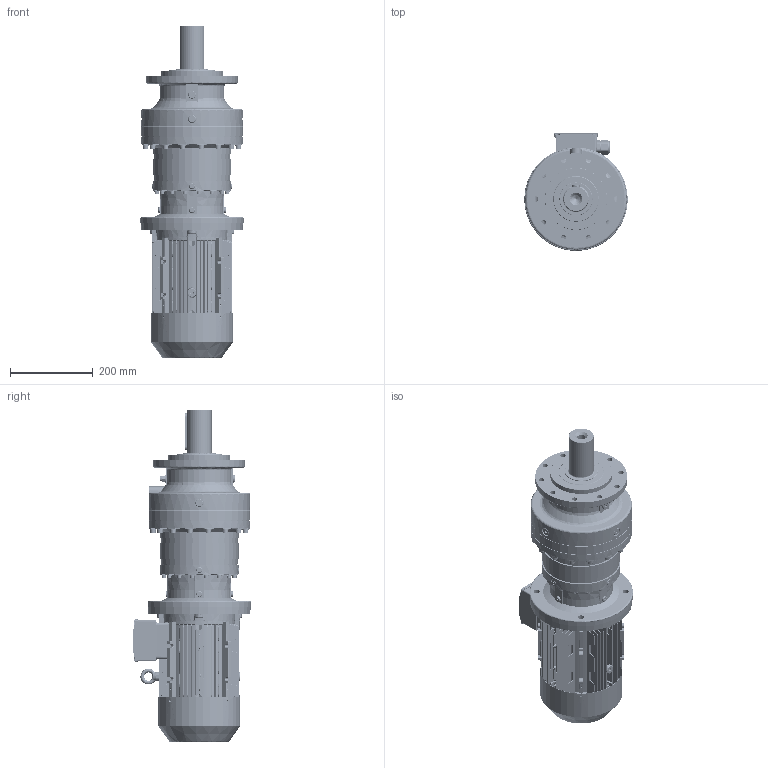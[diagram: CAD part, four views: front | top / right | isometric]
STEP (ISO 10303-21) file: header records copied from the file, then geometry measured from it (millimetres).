
FILE_DESCRIPTION (( 'STEP AP203' ), '1' );
FILE_NAME ('PVL-1503L-MX100L-4.STEP', '2019-05-13T10:16:10', ( '' ), ( '' ), 'SwSTEP 2.0', 'SolidWorks 2012', '' );
FILE_SCHEMA (( 'CONFIG_CONTROL_DESIGN' ));
Products named in the file (19): MX3-100L_B5; IE3 100 B5 flange; IE3 100 shaft cover; IE3 100 terminal box cover; IE3 100 fan; IE3 100 fan cover; plain parallel keys_GB_CONNECTING_PIECE_KEYS_CSK 8X50; IE3 100 terminal box base; IE3 100 Shaft; eyebolts gb_GB_FASTENER_SCREWS_FRS M8-N; IE3 100 casing; PNL_1503L_0_0_A10_B5_ML13A_FL3A_0_0_0_0_0_0_0_0_0_0_0_M1; IE3 100 B3 Shield; FL3A_Varsayìlan; ML13A_Varsayìlan; 11100B5_Varsayìlan; EK1503L_Varsayìlan; P15_Varsayìlan; PVL-1503L-MX100L-4
Assembly tree (19 placements, depth 3):
  PVL-1503L-MX100L-4
    PNL_1503L_0_0_A10_B5_ML13A_FL3A_0_0_0_0_0_0_0_0_0_0_0_M1
      P15_Varsayìlan
      11100B5_Varsayìlan
      ML13A_Varsayìlan
      EK1503L_Varsayìlan
      FL3A_Varsayìlan
    MX3-100L_B5
      IE3 100 casing
      IE3 100 B3 Shield
      IE3 100 Shaft
      eyebolts gb_GB_FASTENER_SCREWS_FRS M8-N
      IE3 100 terminal box base
      IE3 100 terminal box cover
      IE3 100 fan
      IE3 100 fan cover
      plain parallel keys_GB_CONNECTING_PIECE_KEYS_CSK 8X50
      IE3 100 shaft cover  x2
      IE3 100 B5 flange
Bounding box: 250 x 285 x 802.21 mm (x, y, z)
Volume: 13331528.8 mm3; surface area: 1841194.9 mm2
Topology: 22 solids, 24 shells, 6725 faces, 17360 edges, 10646 vertices
Faces by surface type: plane 2291, bspline 1769, cylinder 1753, cone 512, torus 308, sphere 92
Entity records: 271986 total; most frequent: CARTESIAN_POINT 120524, ORIENTED_EDGE 33950, DIRECTION 27828, EDGE_CURVE 16975, VERTEX_POINT 10538, AXIS2_PLACEMENT_3D 10427, EDGE_LOOP 7269, LINE 6974
